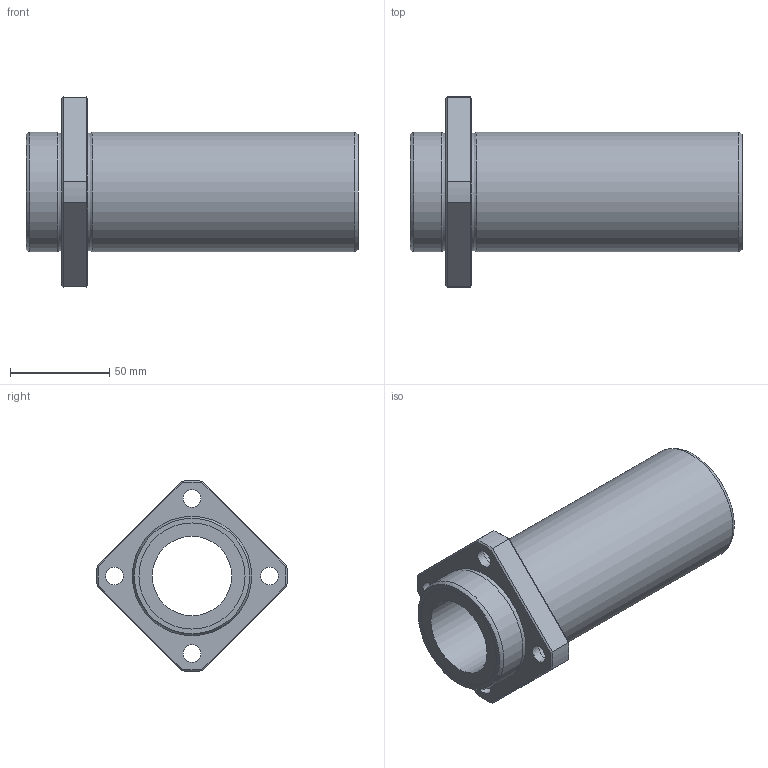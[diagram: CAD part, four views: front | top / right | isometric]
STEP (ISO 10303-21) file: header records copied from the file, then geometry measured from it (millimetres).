
FILE_DESCRIPTION((''),'2;1');
FILE_NAME('C:\Documents and Settings\土屋\My Documents\土屋移動用フォルダ\製品 (図面)\カタログ用3D\変換ファイル\OZAK_3D-CAD(STEP形式)\Part1.-Linear Bearings_ﾘﾆｱﾍﾞｱﾘﾝｸﾞ\09_Maintenance Free_ﾒｲﾝﾃﾅﾝｽﾌﾘｰ\L2017-09-21T14:33:37','2017-09-21T14:33:37',('y'),(''),'Autodesk Inventor 11','Autodesk Inventor 11','');
FILE_SCHEMA(('AUTOMOTIVE_DESIGN { 1 0 10303 214 1 1 1 1 }'));
Length unit declared in the file: millimetre
Products named in the file (1): LFDKB-MF
Bounding box: 167 x 95.93 x 95.93 mm (x, y, z)
Volume: 289892.1 mm3; surface area: 63368.7 mm2
Topology: 1 solids, 1 shells, 51 faces, 103 edges, 62 vertices
Faces by surface type: plane 18, bspline 14, cylinder 9, cone 8, torus 2
Full cylindrical faces by diameter (mm): 40 x1, 53.4 x2, 60 x2
Entity records: 1517 total; most frequent: CARTESIAN_POINT 520, DIRECTION 192, ORIENTED_EDGE 172, EDGE_CURVE 86, EDGE_LOOP 86, AXIS2_PLACEMENT_3D 84, VERTEX_POINT 62, FACE_OUTER_BOUND 51
